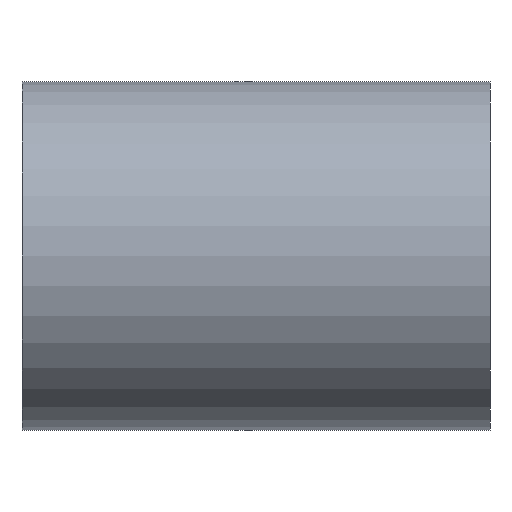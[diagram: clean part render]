
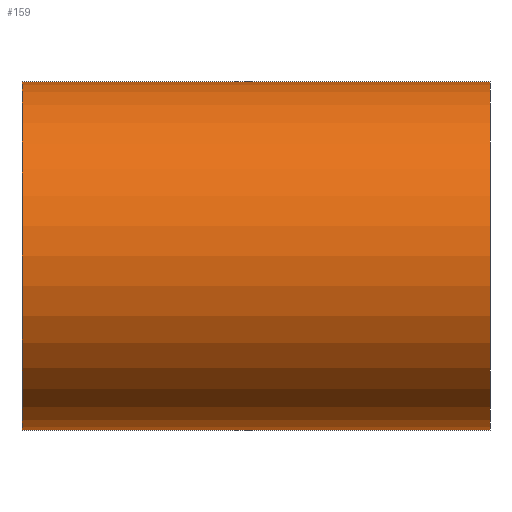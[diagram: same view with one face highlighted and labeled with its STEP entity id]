
A CAD part, left-side view. The second image highlights one B-rep face of the part: STEP entity #159.
In plain terms, the highlighted cylindrical face has radius 40 mm (diameter 80 mm), a partial arc.
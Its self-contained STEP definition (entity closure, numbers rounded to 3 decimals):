
#16 = DIRECTION ( 'NONE',  ( 0., -1., 0. ) ) ;
#17 = DIRECTION ( 'NONE',  ( 0., 1., 0. ) ) ;
#19 = ORIENTED_EDGE ( 'NONE', *, *, #76, .F. ) ;
#20 = VECTOR ( 'NONE', #111, 1000. ) ;
#23 = CARTESIAN_POINT ( 'NONE',  ( 0., 0., -40. ) ) ;
#25 = VERTEX_POINT ( 'NONE', #23 ) ;
#26 = AXIS2_PLACEMENT_3D ( 'NONE', #137, #16, #118 ) ;
#36 = CARTESIAN_POINT ( 'NONE',  ( 0., 0., 40. ) ) ;
#41 = CYLINDRICAL_SURFACE ( 'NONE', #26, 40. ) ;
#44 = ORIENTED_EDGE ( 'NONE', *, *, #120, .F. ) ;
#47 = ORIENTED_EDGE ( 'NONE', *, *, #187, .T. ) ;
#58 = DIRECTION ( 'NONE',  ( 0., -1., 0. ) ) ;
#64 = VERTEX_POINT ( 'NONE', #153 ) ;
#70 = DIRECTION ( 'NONE',  ( 0., 0., 1. ) ) ;
#76 = EDGE_CURVE ( 'NONE', #238, #64, #210, .T. ) ;
#83 = AXIS2_PLACEMENT_3D ( 'NONE', #178, #269, #70 ) ;
#87 = VECTOR ( 'NONE', #58, 1000. ) ;
#91 = LINE ( 'NONE', #200, #20 ) ;
#92 = CIRCLE ( 'NONE', #129, 40. ) ;
#111 = DIRECTION ( 'NONE',  ( 0., -1., 0. ) ) ;
#118 = DIRECTION ( 'NONE',  ( 0., 0., -1. ) ) ;
#119 = CARTESIAN_POINT ( 'NONE',  ( 0., 0., 0. ) ) ;
#120 = EDGE_CURVE ( 'NONE', #64, #262, #91, .T. ) ;
#129 = AXIS2_PLACEMENT_3D ( 'NONE', #119, #17, #253 ) ;
#135 = FACE_OUTER_BOUND ( 'NONE', #146, .T. ) ;
#137 = CARTESIAN_POINT ( 'NONE',  ( 0., 107.5, 0. ) ) ;
#140 = CARTESIAN_POINT ( 'NONE',  ( 0., 107.5, -40. ) ) ;
#146 = EDGE_LOOP ( 'NONE', ( #44, #19, #47, #263 ) ) ;
#153 = CARTESIAN_POINT ( 'NONE',  ( 0., 107.5, 40. ) ) ;
#159 = ADVANCED_FACE ( 'NONE', ( #135 ), #41, .T. ) ;
#173 = EDGE_CURVE ( 'NONE', #25, #262, #92, .T. ) ;
#178 = CARTESIAN_POINT ( 'NONE',  ( 0., 107.5, 0. ) ) ;
#184 = LINE ( 'NONE', #140, #87 ) ;
#187 = EDGE_CURVE ( 'NONE', #238, #25, #184, .T. ) ;
#200 = CARTESIAN_POINT ( 'NONE',  ( 0., 107.5, 40. ) ) ;
#210 = CIRCLE ( 'NONE', #83, 40. ) ;
#238 = VERTEX_POINT ( 'NONE', #252 ) ;
#252 = CARTESIAN_POINT ( 'NONE',  ( 0., 107.5, -40. ) ) ;
#253 = DIRECTION ( 'NONE',  ( 0., 0., 1. ) ) ;
#262 = VERTEX_POINT ( 'NONE', #36 ) ;
#263 = ORIENTED_EDGE ( 'NONE', *, *, #173, .T. ) ;
#269 = DIRECTION ( 'NONE',  ( 0., 1., 0. ) ) ;
